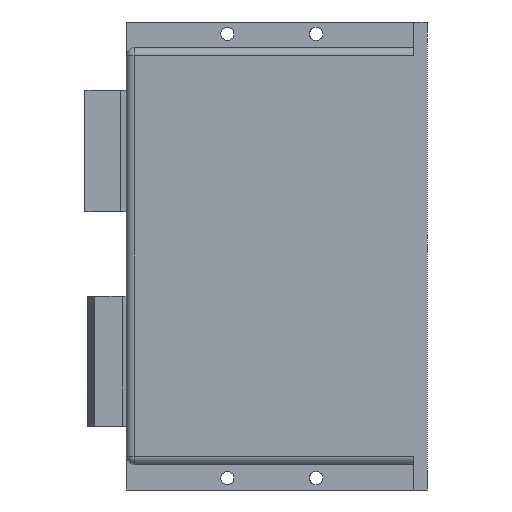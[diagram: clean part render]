
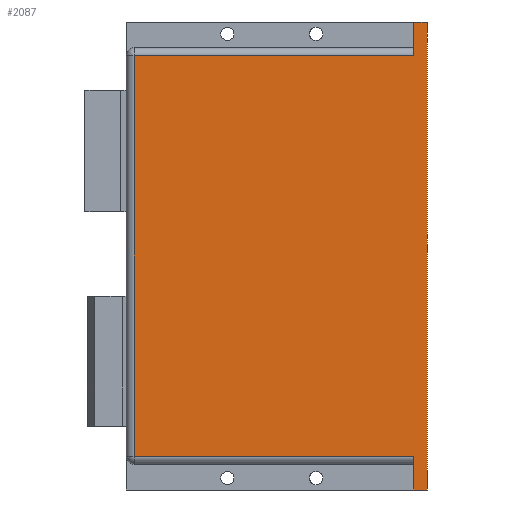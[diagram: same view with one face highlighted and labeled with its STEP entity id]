
A CAD part, left-side view. The second image highlights one B-rep face of the part: STEP entity #2087.
In plain terms, the highlighted planar face has unit normal (-1, 0, 0).
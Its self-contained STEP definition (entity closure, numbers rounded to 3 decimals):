
#34=DIRECTION('',(0.,0.,1.));
#35=VECTOR('',#34,117.8);
#36=CARTESIAN_POINT('',(-17.15,0.,-58.9));
#37=LINE('',#36,#35);
#63=DIRECTION('',(0.,1.,0.));
#64=VECTOR('',#63,3.3);
#65=CARTESIAN_POINT('',(-17.15,0.,58.9));
#66=LINE('',#65,#64);
#239=DIRECTION('',(0.,1.,0.));
#240=VECTOR('',#239,70.4);
#241=CARTESIAN_POINT('',(-17.15,3.3,50.45));
#242=LINE('',#241,#240);
#243=DIRECTION('',(0.,1.,0.));
#244=VECTOR('',#243,3.3);
#245=CARTESIAN_POINT('',(-17.15,0.,-58.9));
#246=LINE('',#245,#244);
#247=DIRECTION('',(0.,-1.,0.));
#248=VECTOR('',#247,70.4);
#249=CARTESIAN_POINT('',(-17.15,73.7,-50.45));
#250=LINE('',#249,#248);
#251=DIRECTION('',(0.,0.,1.));
#252=VECTOR('',#251,100.9);
#253=CARTESIAN_POINT('',(-17.15,73.7,-50.45));
#254=LINE('',#253,#252);
#1120=DIRECTION('',(0.,0.,-1.));
#1121=VECTOR('',#1120,8.45);
#1122=CARTESIAN_POINT('',(-17.15,3.3,-50.45));
#1123=LINE('',#1122,#1121);
#1141=DIRECTION('',(0.,0.,-1.));
#1142=VECTOR('',#1141,8.45);
#1143=CARTESIAN_POINT('',(-17.15,3.3,58.9));
#1144=LINE('',#1143,#1142);
#1403=CARTESIAN_POINT('',(-17.15,0.,-58.9));
#1404=CARTESIAN_POINT('',(-17.15,0.,58.9));
#1405=VERTEX_POINT('',#1403);
#1406=VERTEX_POINT('',#1404);
#1419=CARTESIAN_POINT('',(-17.15,3.3,-58.9));
#1420=VERTEX_POINT('',#1419);
#1421=CARTESIAN_POINT('',(-17.15,3.3,58.9));
#1422=VERTEX_POINT('',#1421);
#1835=CARTESIAN_POINT('',(-17.15,3.3,50.45));
#1836=CARTESIAN_POINT('',(-17.15,73.7,50.45));
#1837=VERTEX_POINT('',#1835);
#1838=VERTEX_POINT('',#1836);
#1841=CARTESIAN_POINT('',(-17.15,73.7,-50.45));
#1842=VERTEX_POINT('',#1841);
#1853=CARTESIAN_POINT('',(-17.15,3.3,-50.45));
#1854=VERTEX_POINT('',#1853);
#2066=CARTESIAN_POINT('',(-17.15,0.,-58.9));
#2067=DIRECTION('',(-1.,0.,0.));
#2068=DIRECTION('',(0.,0.,1.));
#2069=AXIS2_PLACEMENT_3D('',#2066,#2067,#2068);
#2070=PLANE('',#2069);
#2072=ORIENTED_EDGE('',*,*,#2071,.F.);
#2074=ORIENTED_EDGE('',*,*,#2073,.F.);
#2075=ORIENTED_EDGE('',*,*,#1937,.F.);
#2076=ORIENTED_EDGE('',*,*,#1876,.F.);
#2078=ORIENTED_EDGE('',*,*,#2077,.T.);
#2080=ORIENTED_EDGE('',*,*,#2079,.F.);
#2082=ORIENTED_EDGE('',*,*,#2081,.F.);
#2084=ORIENTED_EDGE('',*,*,#2083,.T.);
#2085=EDGE_LOOP('',(#2072,#2074,#2075,#2076,#2078,#2080,#2082,#2084));
#2086=FACE_OUTER_BOUND('',#2085,.F.);
#2087=ADVANCED_FACE('',(#2086),#2070,.T.);
#1876=EDGE_CURVE('',#1405,#1406,#37,.T.);
#1937=EDGE_CURVE('',#1406,#1422,#66,.T.);
#2071=EDGE_CURVE('',#1837,#1838,#242,.T.);
#2073=EDGE_CURVE('',#1422,#1837,#1144,.T.);
#2077=EDGE_CURVE('',#1405,#1420,#246,.T.);
#2079=EDGE_CURVE('',#1854,#1420,#1123,.T.);
#2081=EDGE_CURVE('',#1842,#1854,#250,.T.);
#2083=EDGE_CURVE('',#1842,#1838,#254,.T.);
